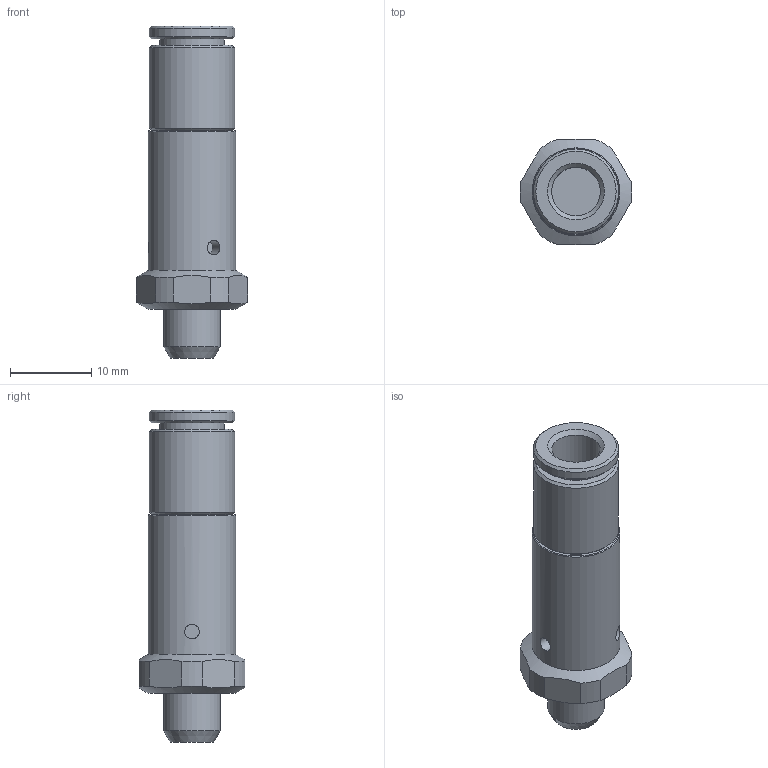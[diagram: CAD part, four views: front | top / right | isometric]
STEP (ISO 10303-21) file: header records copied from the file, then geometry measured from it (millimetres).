
FILE_DESCRIPTION(/* description */ ('V. S.RAPIDO IN TUBO d.6 OUT M7'),/* implementation_level */ '2;1');
FILE_NAME(/* name */ 'I:\Area Tecnica\Disegni\VARIE-3D\Componenti\600\6_02_##_##_L\6_02_06_M7_L.stp',/* time_stamp */ '2017-01-20T13:59:20+01:00',/* author */ ('maniean1'),/* organization */ ('Pneumax S.p.A.'),/* preprocessor_version */ 'ST-DEVELOPER v15.2',/* originating_system */ 'Autodesk Inventor 2014',/* authorisation */ '');
FILE_SCHEMA (('AUTOMOTIVE_DESIGN { 1 0 10303 214 3 1 1 }'));
Length unit declared in the file: millimetre
Products named in the file (1): 6_02_06_M7_L
Bounding box: 13.77 x 13 x 40.9 mm (x, y, z)
Volume: 3052.1 mm3; surface area: 1951.7 mm2
Topology: 1 solids, 1 shells, 40 faces, 82 edges, 52 vertices
Faces by surface type: plane 16, cylinder 15, cone 9
Full cylindrical faces by diameter (mm): 1.8 x3, 6 x1, 7 x1, 8 x1, 10.5 x2, 10.8 x1
Entity records: 1054 total; most frequent: CARTESIAN_POINT 276, DIRECTION 164, ORIENTED_EDGE 124, AXIS2_PLACEMENT_3D 76, EDGE_LOOP 66, EDGE_CURVE 62, VERTEX_POINT 50, ADVANCED_FACE 40
